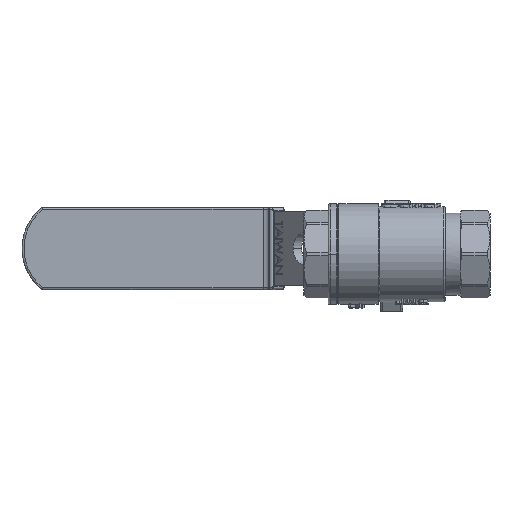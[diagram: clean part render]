
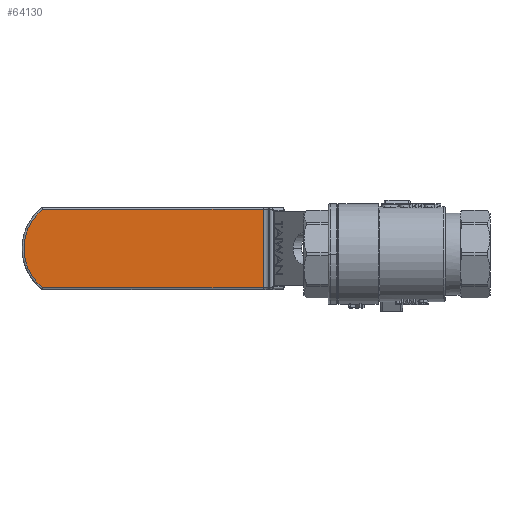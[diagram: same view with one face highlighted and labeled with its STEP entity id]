
A CAD part, front view. The second image highlights one B-rep face of the part: STEP entity #64130.
In plain terms, the highlighted planar face has unit normal (0, -1, 0).
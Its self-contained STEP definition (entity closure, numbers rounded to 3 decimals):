
#576 = EDGE_CURVE ( 'NONE', #24192, #67584, #90329, .T. ) ;
#1379 = CARTESIAN_POINT ( 'NONE',  ( -63.662, -4., 10. ) ) ;
#5385 = VECTOR ( 'NONE', #77175, 1000. ) ;
#7088 = EDGE_CURVE ( 'NONE', #88847, #24192, #96900, .T. ) ;
#11593 = CARTESIAN_POINT ( 'NONE',  ( -63.662, -4., -10.5 ) ) ;
#17285 = CARTESIAN_POINT ( 'NONE',  ( -4.515, -4., 10.5 ) ) ;
#17727 = CARTESIAN_POINT ( 'NONE',  ( -13., -4., 0. ) ) ;
#19827 = PLANE ( 'NONE',  #42898 ) ;
#21860 = FACE_OUTER_BOUND ( 'NONE', #102671, .T. ) ;
#24192 = VERTEX_POINT ( 'NONE', #28410 ) ;
#27178 = DIRECTION ( 'NONE',  ( -1., 0., 0. ) ) ;
#28410 = CARTESIAN_POINT ( 'NONE',  ( -63.662, -4., 10.5 ) ) ;
#29633 = EDGE_CURVE ( 'NONE', #67794, #88847, #77540, .T. ) ;
#31468 = CARTESIAN_POINT ( 'NONE',  ( -63.662, -4., 10.5 ) ) ;
#38485 = CARTESIAN_POINT ( 'NONE',  ( -4.515, -4., -10.5 ) ) ;
#42898 = AXIS2_PLACEMENT_3D ( 'NONE', #1379, #93662, #85423 ) ;
#43124 = EDGE_CURVE ( 'NONE', #67584, #67794, #96341, .T. ) ;
#64130 = ADVANCED_FACE ( 'NONE', ( #21860 ), #19827, .F. ) ;
#67584 = VERTEX_POINT ( 'NONE', #90204 ) ;
#67794 = VERTEX_POINT ( 'NONE', #38485 ) ;
#74166 = VECTOR ( 'NONE', #93154, 1000. ) ;
#74668 = DIRECTION ( 'NONE',  ( 0., -1., 0. ) ) ;
#76230 = VECTOR ( 'NONE', #97051, 1000. ) ;
#77175 = DIRECTION ( 'NONE',  ( 1., 0., 0. ) ) ;
#77540 = CIRCLE ( 'NONE', #110537, 13.5 ) ;
#79503 = ORIENTED_EDGE ( 'NONE', *, *, #43124, .T. ) ;
#85423 = DIRECTION ( 'NONE',  ( -1., 0., 0. ) ) ;
#88847 = VERTEX_POINT ( 'NONE', #17285 ) ;
#90204 = CARTESIAN_POINT ( 'NONE',  ( -63.662, -4., -10.5 ) ) ;
#90329 = LINE ( 'NONE', #111960, #74166 ) ;
#93154 = DIRECTION ( 'NONE',  ( 0., 0., -1. ) ) ;
#93662 = DIRECTION ( 'NONE',  ( 0., 1., 0. ) ) ;
#96341 = LINE ( 'NONE', #11593, #5385 ) ;
#96900 = LINE ( 'NONE', #31468, #76230 ) ;
#97051 = DIRECTION ( 'NONE',  ( -1., 0., 0. ) ) ;
#102105 = ORIENTED_EDGE ( 'NONE', *, *, #29633, .T. ) ;
#102671 = EDGE_LOOP ( 'NONE', ( #112424, #79503, #102105, #115860 ) ) ;
#110537 = AXIS2_PLACEMENT_3D ( 'NONE', #17727, #74668, #27178 ) ;
#111960 = CARTESIAN_POINT ( 'NONE',  ( -63.662, -4., 10. ) ) ;
#112424 = ORIENTED_EDGE ( 'NONE', *, *, #576, .T. ) ;
#115860 = ORIENTED_EDGE ( 'NONE', *, *, #7088, .T. ) ;
